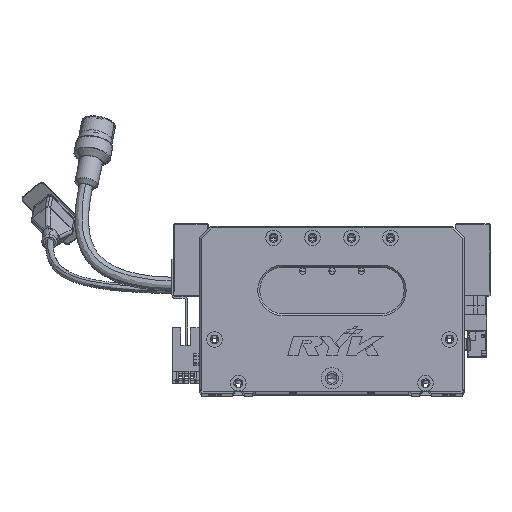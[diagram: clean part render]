
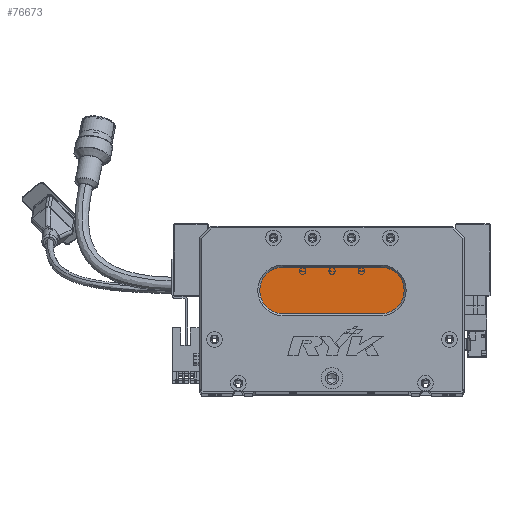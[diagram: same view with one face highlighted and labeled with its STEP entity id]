
A CAD part, top view. The second image highlights one B-rep face of the part: STEP entity #76673.
In plain terms, the highlighted planar face has unit normal (0, 0, 1) as drawn and (0, 0, -1) by its records, which use the part's own axes.
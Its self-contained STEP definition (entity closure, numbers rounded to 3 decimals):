
#66 = DIRECTION ( 'NONE',  ( -1., 0., 0. ) ) ;
#146 = DIRECTION ( 'NONE',  ( 0., 0., -1. ) ) ;
#546 = VECTOR ( 'NONE', #66, 1000. ) ;
#3548 = PLANE ( 'NONE',  #83082 ) ;
#4446 = FACE_OUTER_BOUND ( 'NONE', #77375, .T. ) ;
#5803 = CARTESIAN_POINT ( 'NONE',  ( 43., 64., 13. ) ) ;
#8695 = ORIENTED_EDGE ( 'NONE', *, *, #70247, .T. ) ;
#8714 = AXIS2_PLACEMENT_3D ( 'NONE', #44193, #30811, #62840 ) ;
#11824 = CARTESIAN_POINT ( 'NONE',  ( 93., 64., 13. ) ) ;
#12828 = VERTEX_POINT ( 'NONE', #11824 ) ;
#16466 = VERTEX_POINT ( 'NONE', #5803 ) ;
#17078 = DIRECTION ( 'NONE',  ( 1., 0., 0. ) ) ;
#17807 = LINE ( 'NONE', #45454, #546 ) ;
#21882 = EDGE_CURVE ( 'NONE', #12828, #44924, #42432, .T. ) ;
#26539 = ORIENTED_EDGE ( 'NONE', *, *, #54985, .T. ) ;
#29861 = DIRECTION ( 'NONE',  ( 0., 0., -1. ) ) ;
#30811 = DIRECTION ( 'NONE',  ( 0., 0., -1. ) ) ;
#31293 = VERTEX_POINT ( 'NONE', #35689 ) ;
#33886 = CIRCLE ( 'NONE', #8714, 12. ) ;
#35689 = CARTESIAN_POINT ( 'NONE',  ( 31., 52., 13. ) ) ;
#36455 = ORIENTED_EDGE ( 'NONE', *, *, #64115, .T. ) ;
#38998 = CARTESIAN_POINT ( 'NONE',  ( 93., 52., 13. ) ) ;
#41860 = CARTESIAN_POINT ( 'NONE',  ( 93., 40., 13. ) ) ;
#42432 = CIRCLE ( 'NONE', #52492, 12. ) ;
#44193 = CARTESIAN_POINT ( 'NONE',  ( 43., 52., 13. ) ) ;
#44924 = VERTEX_POINT ( 'NONE', #41860 ) ;
#44937 = DIRECTION ( 'NONE',  ( 0., 0., -1. ) ) ;
#45454 = CARTESIAN_POINT ( 'NONE',  ( 93., 40., 13. ) ) ;
#45534 = DIRECTION ( 'NONE',  ( -1., 0., 0. ) ) ;
#45775 = CARTESIAN_POINT ( 'NONE',  ( 43., 52., 13. ) ) ;
#49961 = ORIENTED_EDGE ( 'NONE', *, *, #76147, .T. ) ;
#52492 = AXIS2_PLACEMENT_3D ( 'NONE', #38998, #146, #45534 ) ;
#54985 = EDGE_CURVE ( 'NONE', #31293, #16466, #67186, .T. ) ;
#62840 = DIRECTION ( 'NONE',  ( -1., 0., 0. ) ) ;
#64115 = EDGE_CURVE ( 'NONE', #16466, #12828, #72326, .T. ) ;
#64176 = VECTOR ( 'NONE', #17078, 1000. ) ;
#67186 = CIRCLE ( 'NONE', #68388, 12. ) ;
#68388 = AXIS2_PLACEMENT_3D ( 'NONE', #45775, #44937, #78298 ) ;
#68623 = CARTESIAN_POINT ( 'NONE',  ( 93., 64., 13. ) ) ;
#70247 = EDGE_CURVE ( 'NONE', #44924, #82541, #17807, .T. ) ;
#72326 = LINE ( 'NONE', #68623, #64176 ) ;
#74523 = CARTESIAN_POINT ( 'NONE',  ( 43., 40., 13. ) ) ;
#74657 = DIRECTION ( 'NONE',  ( -1., 0., 0. ) ) ;
#74927 = CARTESIAN_POINT ( 'NONE',  ( 93., 52., 13. ) ) ;
#76147 = EDGE_CURVE ( 'NONE', #82541, #31293, #33886, .T. ) ;
#76673 = ADVANCED_FACE ( 'NONE', ( #4446 ), #3548, .T. ) ;
#77375 = EDGE_LOOP ( 'NONE', ( #77858, #8695, #49961, #26539, #36455 ) ) ;
#77858 = ORIENTED_EDGE ( 'NONE', *, *, #21882, .T. ) ;
#78298 = DIRECTION ( 'NONE',  ( -1., 0., 0. ) ) ;
#82541 = VERTEX_POINT ( 'NONE', #74523 ) ;
#83082 = AXIS2_PLACEMENT_3D ( 'NONE', #74927, #29861, #74657 ) ;
